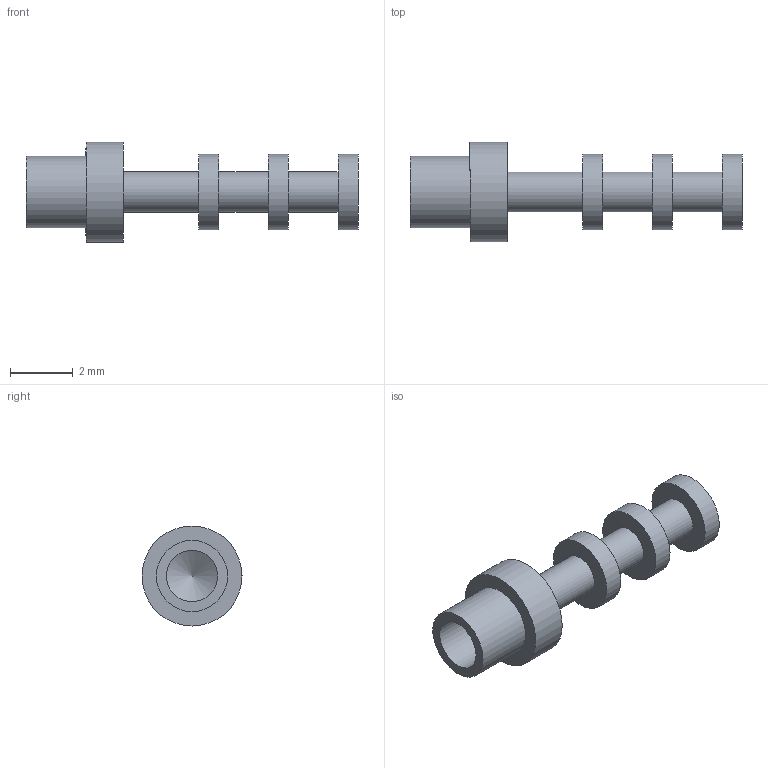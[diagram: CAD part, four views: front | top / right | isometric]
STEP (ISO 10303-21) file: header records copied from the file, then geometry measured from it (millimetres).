
FILE_DESCRIPTION(/* description */ (''),/* implementation_level */ '2;1');
FILE_NAME(/* name */ 'Z:\STEP folder\160-1058-01.ipt.stp',/* time_stamp */ '2016-12-07T10:46:32+00:00',/* author */ ('Paul Karlsons'),/* organization */ (''),/* preprocessor_version */ 'ST-DEVELOPER v15.2',/* originating_system */ 'Autodesk Inventor 2014',/* authorisation */ '');
FILE_SCHEMA (('AUTOMOTIVE_DESIGN { 1 0 10303 214 3 1 1 }'));
Length unit declared in the file: millimetre
Products named in the file (1): 160-1058-01
Bounding box: 10.54 x 3.17 x 3.17 mm (x, y, z)
Volume: 29.8 mm3; surface area: 103.3 mm2
Topology: 1 solids, 1 shells, 19 faces, 29 edges, 19 vertices
Faces by surface type: cylinder 9, plane 9, cone 1
Full cylindrical faces by diameter (mm): 1.27 x3, 1.626 x1, 2.26 x1, 2.388 x3, 3.175 x1
Entity records: 395 total; most frequent: DIRECTION 76, CARTESIAN_POINT 56, AXIS2_PLACEMENT_3D 38, EDGE_LOOP 36, ORIENTED_EDGE 36, FACE_BOUND 21, ADVANCED_FACE 19, CIRCLE 18
